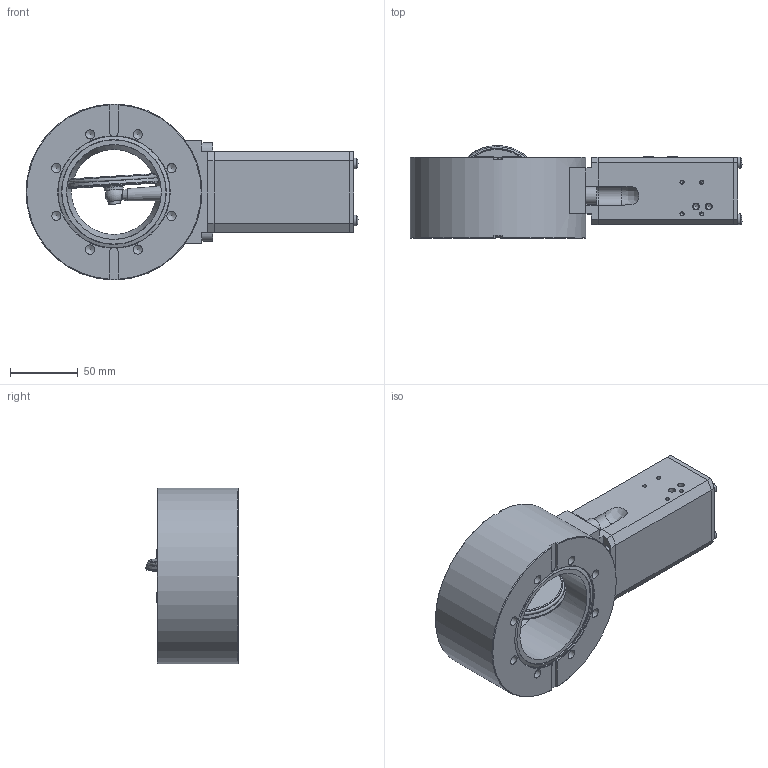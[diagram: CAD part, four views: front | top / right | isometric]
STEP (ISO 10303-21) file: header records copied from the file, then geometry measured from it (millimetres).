
FILE_DESCRIPTION(/* description */ (''),/* implementation_level */ '2;1');
FILE_NAME(/* name */ '1050913996_203.stp',/* time_stamp */ '2010-12-02T09:53:41+01:00',/* author */ (''),/* organization */ (''),/* preprocessor_version */ 'ST-DEVELOPER v11',/* originating_system */ 'SIEMENS UGS NX 6.0',/* authorisation */ '');
FILE_SCHEMA (('CONFIG_CONTROL_DESIGN'));
Length unit declared in the file: millimetre
Products named in the file (17): n-6089-307.1; 368024; 234138.1; N-5100-142_1.1; 244911.1; 235469.4; N-6005-453.2; 224828.2; 235471.3; 235470.6; 235466.5; N-6013-443.2; N-6024-540.1; 235459.2; 368028_MODEL; 243958.1_NX-ARRAGMNTZUSAMMENST1; 239725.2
Assembly tree (23 placements, depth 4):
  239725.2
    235459.2
    N-6024-540.1  x4
    N-6013-443.2  x4
    235466.5
    235470.6
    235471.3
    224828.2  x2
    N-6005-453.2
    235469.4
    244911.1
    243958.1_NX-ARRAGMNTZUSAMMENST1
      N-5100-142_1.1
      234138.1
      368028_MODEL
        368024
        n-6089-307.1
Bounding box: 245.32 x 68.59 x 129.98 mm (x, y, z)
Volume: 776495.6 mm3; surface area: 157162.9 mm2
Topology: 27 solids, 27 shells, 668 faces, 1610 edges, 1044 vertices
Faces by surface type: plane 355, cylinder 183, cone 101, torus 19, sphere 6, bspline 4
Full cylindrical faces by diameter (mm): 1.2 x2, 2 x6, 2.5 x8, 3 x6, 3.3 x14, 4 x24, 4.006 x1, 4.16 x1, 4.2 x3, 4.3 x5, 4.4 x8, 5 x5, 5.2 x1, 5.5 x1, 5.506 x1, 6.04 x1, 6.66 x2, 6.7 x2, 6.8 x18, 7.5 x4, 7.95 x1, 8 x12, 8.2 x2, 8.5 x1, 9 x1, 11 x1, 11.514 x1, 13 x3, 14 x2, 18.8 x1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
Entity records: 17139 total; most frequent: CARTESIAN_POINT 3403, DIRECTION 2475, ORIENTED_EDGE 1986, AXIS2_PLACEMENT_3D 1002, EDGE_CURVE 993, EDGE_LOOP 878, VERTEX_POINT 805, FACE_BOUND 694
